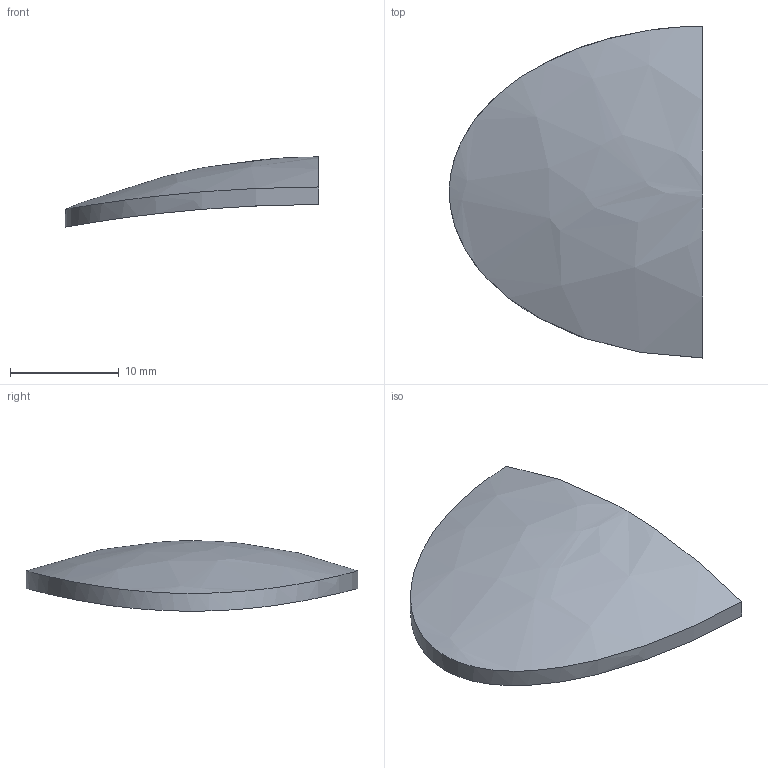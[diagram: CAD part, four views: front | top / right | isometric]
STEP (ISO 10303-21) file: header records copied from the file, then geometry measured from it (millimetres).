
FILE_DESCRIPTION(('FreeCAD Model'),'2;1');
FILE_NAME('Open CASCADE Shape Model','2026-11-20T08:25:31',('FreeCAD'),( 'FreeCAD'),'Open CASCADE STEP processor 7.8','FreeCAD','Unknown');
FILE_SCHEMA(('AUTOMOTIVE_DESIGN { 1 0 10303 214 1 1 1 1 }'));
Length unit declared in the file: millimetre
Products named in the file (1): Open CASCADE STEP translator 7.8 1
Bounding box: 23.3 x 30.53 x 6.47 mm (x, y, z)
Volume: 867 mm3; surface area: 1302.1 mm2
Topology: 1 solids, 1 shells, 4 faces, 6 edges, 4 vertices
Faces by surface type: bspline 2, extrusion 1, plane 1
Entity records: 1107 total; most frequent: CARTESIAN_POINT 1043, ORIENTED_EDGE 12, EDGE_CURVE 6, B_SPLINE_CURVE_WITH_KNOTS 6, DIRECTION 5, ADVANCED_FACE 4, FACE_BOUND 4, EDGE_LOOP 4
